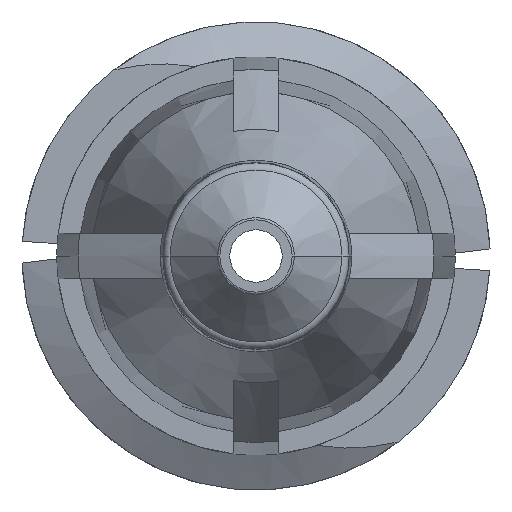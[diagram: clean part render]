
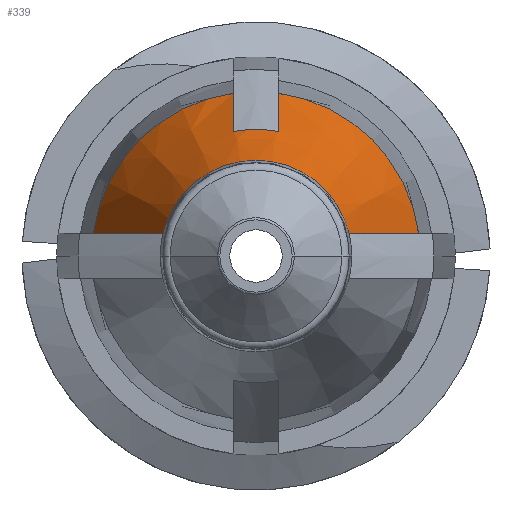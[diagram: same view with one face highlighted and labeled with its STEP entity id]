
A CAD part, front view. The second image highlights one B-rep face of the part: STEP entity #339.
In plain terms, the highlighted conical face has half-angle 20 degrees and reference radius 2.745 mm.
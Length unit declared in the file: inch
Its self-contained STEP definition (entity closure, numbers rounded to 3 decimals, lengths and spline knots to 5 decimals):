
#35 = EDGE_CURVE ( 'NONE', #2237, #1723, #1562, .T. ) ;
#71 = CARTESIAN_POINT ( 'NONE',  ( 0.015, -0.42866, 0.0987 ) ) ;
#96 = ORIENTED_EDGE ( 'NONE', *, *, #745, .F. ) ;
#133 = CARTESIAN_POINT ( 'NONE',  ( 0.10703, -0.406, 0.015 ) ) ;
#143 = DIRECTION ( 'NONE',  ( -1., 0., 0. ) ) ;
#339 = ADVANCED_FACE ( 'NONE', ( #1989 ), #2733, .T. ) ;
#395 = ORIENTED_EDGE ( 'NONE', *, *, #3096, .T. ) ;
#411 = B_SPLINE_CURVE_WITH_KNOTS ( 'NONE', 3,
 ( #666, #1136, #2206, #133 ),
 .UNSPECIFIED., .F., .F.,
 ( 4, 4 ),
 ( 0.00282, 0.00617 ),
 .UNSPECIFIED. ) ;
#472 = CARTESIAN_POINT ( 'NONE',  ( 0., -0.47395, 0. ) ) ;
#559 = ORIENTED_EDGE ( 'NONE', *, *, #35, .F. ) ;
#633 = CARTESIAN_POINT ( 'NONE',  ( -0.015, -0.406, 0.10703 ) ) ;
#635 = EDGE_CURVE ( 'NONE', #752, #2234, #1799, .T. ) ;
#644 = EDGE_CURVE ( 'NONE', #752, #1364, #2137, .T. ) ;
#647 = CARTESIAN_POINT ( 'NONE',  ( 0.015, -0.406, 0.10703 ) ) ;
#666 = CARTESIAN_POINT ( 'NONE',  ( 0.06119, -0.52985, 0.015 ) ) ;
#678 = CARTESIAN_POINT ( 'NONE',  ( -0.015, -0.47395, 0.08198 ) ) ;
#694 = CARTESIAN_POINT ( 'NONE',  ( -0.015, -0.406, 0.10703 ) ) ;
#742 = CARTESIAN_POINT ( 'NONE',  ( 0., -0.406, 0. ) ) ;
#744 = CARTESIAN_POINT ( 'NONE',  ( 0.015, -0.47395, 0.08198 ) ) ;
#745 = EDGE_CURVE ( 'NONE', #3311, #2237, #2294, .T. ) ;
#752 = VERTEX_POINT ( 'NONE', #1429 ) ;
#813 = CARTESIAN_POINT ( 'NONE',  ( 0.10703, -0.406, 0.015 ) ) ;
#848 = CARTESIAN_POINT ( 'NONE',  ( -0.09185, -0.44732, 0.015 ) ) ;
#902 = CARTESIAN_POINT ( 'NONE',  ( -0.015, -0.42866, 0.0987 ) ) ;
#1070 = AXIS2_PLACEMENT_3D ( 'NONE', #1135, #1192, #2500 ) ;
#1097 = CARTESIAN_POINT ( 'NONE',  ( 0.015, -0.47395, 0.08198 ) ) ;
#1120 = CARTESIAN_POINT ( 'NONE',  ( -0.10703, -0.406, 0.015 ) ) ;
#1135 = CARTESIAN_POINT ( 'NONE',  ( 0., -0.52985, 0. ) ) ;
#1136 = CARTESIAN_POINT ( 'NONE',  ( 0.07664, -0.48863, 0.015 ) ) ;
#1192 = DIRECTION ( 'NONE',  ( 0., 1., 0. ) ) ;
#1210 = CARTESIAN_POINT ( 'NONE',  ( 0.06119, -0.52985, 0.015 ) ) ;
#1229 = B_SPLINE_CURVE_WITH_KNOTS ( 'NONE', 3,
 ( #1097, #2934, #71, #2381 ),
 .UNSPECIFIED., .F., .F.,
 ( 4, 4 ),
 ( 0.00247, 0.00431 ),
 .UNSPECIFIED. ) ;
#1235 = AXIS2_PLACEMENT_3D ( 'NONE', #742, #3329, #143 ) ;
#1364 = VERTEX_POINT ( 'NONE', #2585 ) ;
#1369 = AXIS2_PLACEMENT_3D ( 'NONE', #2433, #2131, #3172 ) ;
#1429 = CARTESIAN_POINT ( 'NONE',  ( -0.06119, -0.52985, 0.015 ) ) ;
#1466 = CIRCLE ( 'NONE', #3401, 0.10808 ) ;
#1538 = EDGE_CURVE ( 'NONE', #1723, #1828, #1229, .T. ) ;
#1562 = CIRCLE ( 'NONE', #2456, 0.08335 ) ;
#1591 = EDGE_CURVE ( 'NONE', #1364, #3311, #2594, .T. ) ;
#1723 = VERTEX_POINT ( 'NONE', #744 ) ;
#1746 = ORIENTED_EDGE ( 'NONE', *, *, #1538, .F. ) ;
#1799 = CIRCLE ( 'NONE', #1070, 0.063 ) ;
#1828 = VERTEX_POINT ( 'NONE', #647 ) ;
#1917 = ORIENTED_EDGE ( 'NONE', *, *, #1591, .F. ) ;
#1958 = CARTESIAN_POINT ( 'NONE',  ( -0.015, -0.45131, 0.09036 ) ) ;
#1989 = FACE_OUTER_BOUND ( 'NONE', #2468, .T. ) ;
#2042 = ORIENTED_EDGE ( 'NONE', *, *, #635, .T. ) ;
#2057 = DIRECTION ( 'NONE',  ( -1., 0., 0. ) ) ;
#2069 = ORIENTED_EDGE ( 'NONE', *, *, #644, .F. ) ;
#2131 = DIRECTION ( 'NONE',  ( 0., 1., 0. ) ) ;
#2137 = B_SPLINE_CURVE_WITH_KNOTS ( 'NONE', 3,
 ( #2205, #2521, #848, #1120 ),
 .UNSPECIFIED., .F., .F.,
 ( 4, 4 ),
 ( 0.00282, 0.00617 ),
 .UNSPECIFIED. ) ;
#2205 = CARTESIAN_POINT ( 'NONE',  ( -0.06119, -0.52985, 0.015 ) ) ;
#2206 = CARTESIAN_POINT ( 'NONE',  ( 0.09185, -0.44732, 0.015 ) ) ;
#2234 = VERTEX_POINT ( 'NONE', #1210 ) ;
#2237 = VERTEX_POINT ( 'NONE', #678 ) ;
#2279 = DIRECTION ( 'NONE',  ( 0., 1., 0. ) ) ;
#2294 = B_SPLINE_CURVE_WITH_KNOTS ( 'NONE', 3,
 ( #633, #902, #1958, #3006 ),
 .UNSPECIFIED., .F., .F.,
 ( 4, 4 ),
 ( 0.00343, 0.00527 ),
 .UNSPECIFIED. ) ;
#2316 = DIRECTION ( 'NONE',  ( 0., 1., 0. ) ) ;
#2381 = CARTESIAN_POINT ( 'NONE',  ( 0.015, -0.406, 0.10703 ) ) ;
#2407 = ORIENTED_EDGE ( 'NONE', *, *, #2427, .F. ) ;
#2427 = EDGE_CURVE ( 'NONE', #1828, #3365, #1466, .T. ) ;
#2433 = CARTESIAN_POINT ( 'NONE',  ( 0., -0.406, 0. ) ) ;
#2456 = AXIS2_PLACEMENT_3D ( 'NONE', #472, #2316, #3362 ) ;
#2468 = EDGE_LOOP ( 'NONE', ( #2069, #2042, #395, #2407, #1746, #559, #96, #1917 ) ) ;
#2500 = DIRECTION ( 'NONE',  ( -1., 0., 0. ) ) ;
#2521 = CARTESIAN_POINT ( 'NONE',  ( -0.07664, -0.48863, 0.015 ) ) ;
#2585 = CARTESIAN_POINT ( 'NONE',  ( -0.10703, -0.406, 0.015 ) ) ;
#2594 = CIRCLE ( 'NONE', #1369, 0.10808 ) ;
#2733 = CONICAL_SURFACE ( 'NONE', #1235, 0.10808, 0.349 ) ;
#2934 = CARTESIAN_POINT ( 'NONE',  ( 0.015, -0.45131, 0.09036 ) ) ;
#3006 = CARTESIAN_POINT ( 'NONE',  ( -0.015, -0.47395, 0.08198 ) ) ;
#3086 = CARTESIAN_POINT ( 'NONE',  ( 0., -0.406, 0. ) ) ;
#3096 = EDGE_CURVE ( 'NONE', #2234, #3365, #411, .T. ) ;
#3172 = DIRECTION ( 'NONE',  ( -1., 0., 0. ) ) ;
#3311 = VERTEX_POINT ( 'NONE', #694 ) ;
#3329 = DIRECTION ( 'NONE',  ( 0., 1., 0. ) ) ;
#3362 = DIRECTION ( 'NONE',  ( 1., 0., 0. ) ) ;
#3365 = VERTEX_POINT ( 'NONE', #813 ) ;
#3401 = AXIS2_PLACEMENT_3D ( 'NONE', #3086, #2279, #2057 ) ;
